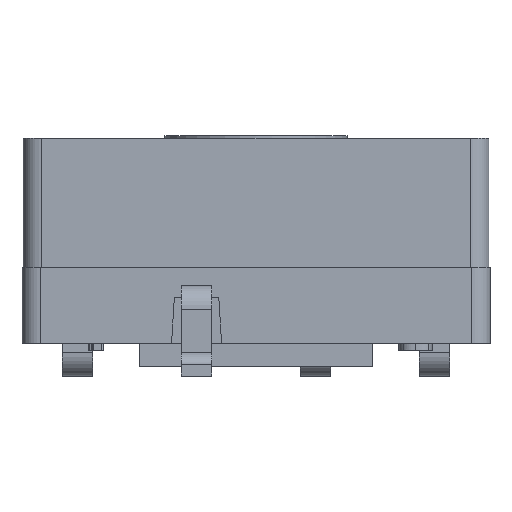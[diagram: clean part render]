
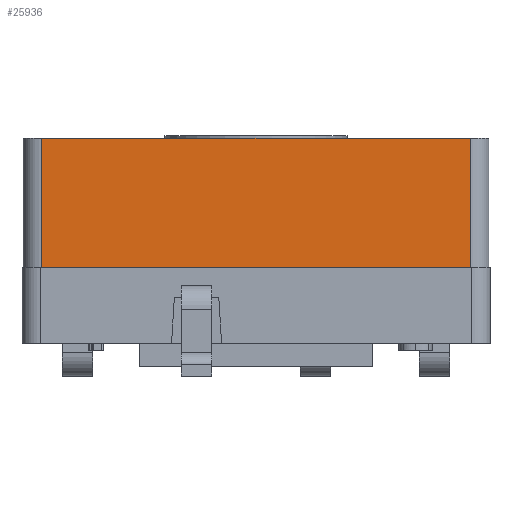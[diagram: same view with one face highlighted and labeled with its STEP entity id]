
A CAD part, front view. The second image highlights one B-rep face of the part: STEP entity #25936.
In plain terms, the highlighted planar face has unit normal (0, -1, 0).
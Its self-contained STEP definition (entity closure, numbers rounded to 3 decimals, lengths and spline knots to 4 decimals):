
#3652 = CARTESIAN_POINT ( 'NONE',  ( 4.575, -4.975, 0. ) ) ;
#3653 = CARTESIAN_POINT ( 'NONE',  ( 4.575, -4.975, 2.76 ) ) ;
#3654 = DIRECTION ( 'NONE',  ( 0., 0., -1. ) ) ;
#3655 = VECTOR ( 'NONE', #3654, 1000. ) ;
#3656 = CARTESIAN_POINT ( 'NONE',  ( 4.575, -4.975, 1.38 ) ) ;
#3657 = LINE ( 'NONE', #3656, #3655 ) ;
#3669 = CARTESIAN_POINT ( 'NONE',  ( -4.575, -4.975, 2.76 ) ) ;
#3670 = DIRECTION ( 'NONE',  ( 0., 0., 1. ) ) ;
#3671 = VECTOR ( 'NONE', #3670, 1000. ) ;
#3672 = CARTESIAN_POINT ( 'NONE',  ( -4.575, -4.975, 1.38 ) ) ;
#3673 = LINE ( 'NONE', #3672, #3671 ) ;
#3674 = CARTESIAN_POINT ( 'NONE',  ( -4.575, -4.975, 0. ) ) ;
#3721 = DIRECTION ( 'NONE',  ( -1., 0., 0. ) ) ;
#3722 = VECTOR ( 'NONE', #3721, 1000. ) ;
#3723 = CARTESIAN_POINT ( 'NONE',  ( 0., -4.975, 0. ) ) ;
#3724 = LINE ( 'NONE', #3723, #3722 ) ;
#8965 = DIRECTION ( 'NONE',  ( 1., 0., 0. ) ) ;
#8966 = VECTOR ( 'NONE', #8965, 1000. ) ;
#8967 = CARTESIAN_POINT ( 'NONE',  ( -4.975, -4.975, 2.76 ) ) ;
#8968 = DIRECTION ( 'NONE',  ( -1., 0., 0. ) ) ;
#8969 = DIRECTION ( 'NONE',  ( 0., 1., 0. ) ) ;
#8970 = CARTESIAN_POINT ( 'NONE',  ( 4.575, -4.975, 0. ) ) ;
#8971 = AXIS2_PLACEMENT_3D ( 'NONE', #8970, #8969, #8968 ) ;
#8972 = PLANE ( 'NONE',  #8971 ) ;
#8973 = LINE ( 'NONE', #8967, #8966 ) ;
#8974 = FACE_OUTER_BOUND ( 'NONE', #25939, .T. ) ;
#22897 = VERTEX_POINT ( 'NONE', #3674 ) ;
#22899 = EDGE_CURVE ( 'NONE', #22897, #22900, #3673, .T. ) ;
#22900 = VERTEX_POINT ( 'NONE', #3669 ) ;
#22907 = EDGE_CURVE ( 'NONE', #22909, #22911, #3657, .T. ) ;
#22909 = VERTEX_POINT ( 'NONE', #3653 ) ;
#22911 = VERTEX_POINT ( 'NONE', #3652 ) ;
#22964 = EDGE_CURVE ( 'NONE', #22911, #22897, #3724, .T. ) ;
#25936 = ADVANCED_FACE ( 'NONE', ( #8974 ), #8972, .F. ) ;
#25939 = EDGE_LOOP ( 'NONE', ( #25940, #25942, #25945, #25947 ) ) ;
#25940 = ORIENTED_EDGE ( 'NONE', *, *, #22907, .F. ) ;
#25942 = ORIENTED_EDGE ( 'NONE', *, *, #25944, .F. ) ;
#25944 = EDGE_CURVE ( 'NONE', #22900, #22909, #8973, .T. ) ;
#25945 = ORIENTED_EDGE ( 'NONE', *, *, #22899, .F. ) ;
#25947 = ORIENTED_EDGE ( 'NONE', *, *, #22964, .F. ) ;
